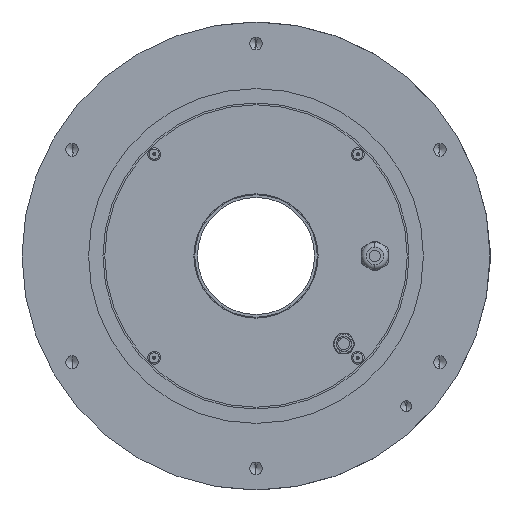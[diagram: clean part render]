
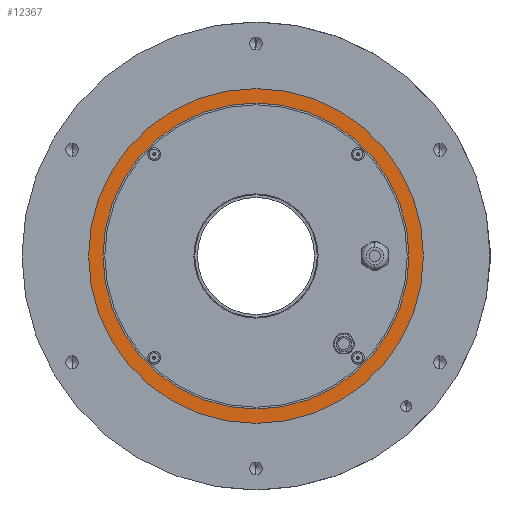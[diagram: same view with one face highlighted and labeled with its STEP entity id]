
A CAD part, front view. The second image highlights one B-rep face of the part: STEP entity #12367.
In plain terms, the highlighted planar face has unit normal (0, -1, 0).
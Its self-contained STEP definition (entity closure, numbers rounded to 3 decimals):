
#1215 = PLANE ( 'NONE',  #16252 ) ;
#1925 = CARTESIAN_POINT ( 'NONE',  ( 0., 0., 0. ) ) ;
#2023 = DIRECTION ( 'NONE',  ( 0., 0., -1. ) ) ;
#2092 = CARTESIAN_POINT ( 'NONE',  ( 0., 0., 0. ) ) ;
#2320 = DIRECTION ( 'NONE',  ( 0., -1., 0. ) ) ;
#2950 = CIRCLE ( 'NONE', #15563, 93. ) ;
#3221 = VERTEX_POINT ( 'NONE', #19266 ) ;
#3618 = ORIENTED_EDGE ( 'NONE', *, *, #12395, .T. ) ;
#4929 = CARTESIAN_POINT ( 'NONE',  ( 0., 0., 93. ) ) ;
#5110 = CIRCLE ( 'NONE', #10511, 85. ) ;
#6001 = CARTESIAN_POINT ( 'NONE',  ( 0., 0., 0. ) ) ;
#6364 = DIRECTION ( 'NONE',  ( 0., -1., 0. ) ) ;
#7667 = CARTESIAN_POINT ( 'NONE',  ( 0., 0., 0. ) ) ;
#8596 = CARTESIAN_POINT ( 'NONE',  ( 0., 0., -93. ) ) ;
#8645 = DIRECTION ( 'NONE',  ( 0., 0., -1. ) ) ;
#9703 = CARTESIAN_POINT ( 'NONE',  ( 0., 0., -85. ) ) ;
#10235 = EDGE_CURVE ( 'NONE', #14205, #14307, #21977, .T. ) ;
#10511 = AXIS2_PLACEMENT_3D ( 'NONE', #6001, #2320, #21221 ) ;
#10699 = CIRCLE ( 'NONE', #18204, 85. ) ;
#11802 = ORIENTED_EDGE ( 'NONE', *, *, #21686, .F. ) ;
#12367 = ADVANCED_FACE ( 'NONE', ( #18525, #22146 ), #1215, .T. ) ;
#12395 = EDGE_CURVE ( 'NONE', #14307, #14205, #2950, .T. ) ;
#12471 = DIRECTION ( 'NONE',  ( 0., -1., 0. ) ) ;
#12556 = ORIENTED_EDGE ( 'NONE', *, *, #12934, .F. ) ;
#12634 = AXIS2_PLACEMENT_3D ( 'NONE', #1925, #19456, #2023 ) ;
#12934 = EDGE_CURVE ( 'NONE', #3221, #21038, #10699, .T. ) ;
#12944 = EDGE_LOOP ( 'NONE', ( #15773, #3618 ) ) ;
#13245 = DIRECTION ( 'NONE',  ( 0., 0., -1. ) ) ;
#14205 = VERTEX_POINT ( 'NONE', #8596 ) ;
#14307 = VERTEX_POINT ( 'NONE', #4929 ) ;
#14543 = DIRECTION ( 'NONE',  ( 0., 0., -1. ) ) ;
#14935 = CARTESIAN_POINT ( 'NONE',  ( 85., 0., 0. ) ) ;
#15563 = AXIS2_PLACEMENT_3D ( 'NONE', #2092, #12471, #8645 ) ;
#15773 = ORIENTED_EDGE ( 'NONE', *, *, #10235, .T. ) ;
#16252 = AXIS2_PLACEMENT_3D ( 'NONE', #14935, #6364, #13245 ) ;
#18204 = AXIS2_PLACEMENT_3D ( 'NONE', #7667, #21621, #14543 ) ;
#18525 = FACE_OUTER_BOUND ( 'NONE', #12944, .T. ) ;
#19266 = CARTESIAN_POINT ( 'NONE',  ( 0., 0., 85. ) ) ;
#19456 = DIRECTION ( 'NONE',  ( 0., -1., 0. ) ) ;
#21038 = VERTEX_POINT ( 'NONE', #9703 ) ;
#21062 = EDGE_LOOP ( 'NONE', ( #11802, #12556 ) ) ;
#21221 = DIRECTION ( 'NONE',  ( 0., 0., -1. ) ) ;
#21621 = DIRECTION ( 'NONE',  ( 0., -1., 0. ) ) ;
#21686 = EDGE_CURVE ( 'NONE', #21038, #3221, #5110, .T. ) ;
#21977 = CIRCLE ( 'NONE', #12634, 93. ) ;
#22146 = FACE_BOUND ( 'NONE', #21062, .T. ) ;
